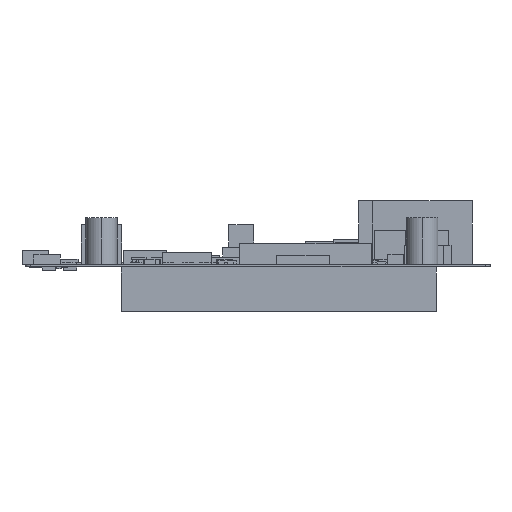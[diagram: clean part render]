
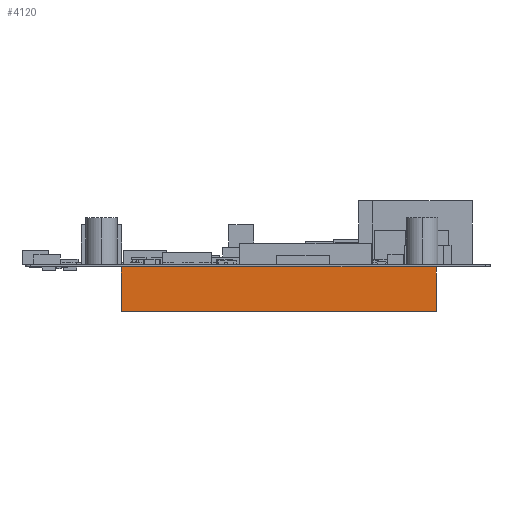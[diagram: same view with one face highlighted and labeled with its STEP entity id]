
A CAD part, left-side view. The second image highlights one B-rep face of the part: STEP entity #4120.
In plain terms, the highlighted planar face has unit normal (-1, 0, 0) as drawn and (1, 0, 0) by its records, which use the part's own axes.
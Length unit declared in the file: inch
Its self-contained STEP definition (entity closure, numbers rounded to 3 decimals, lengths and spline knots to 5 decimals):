
#4014=DIRECTION('',(0.,-1.,0.));
#4015=VECTOR('',#4014,2.64566);
#4016=CARTESIAN_POINT('',(2.17677,1.31063,0.));
#4017=LINE('',#4016,#4015);
#4018=DIRECTION('',(0.,0.,-1.));
#4019=VECTOR('',#4018,0.37214);
#4020=CARTESIAN_POINT('',(2.17677,1.31063,0.37214));
#4021=LINE('',#4020,#4019);
#4026=DIRECTION('',(0.,0.,-1.));
#4027=VECTOR('',#4026,0.37214);
#4028=CARTESIAN_POINT('',(2.17677,-1.33503,0.37214));
#4029=LINE('',#4028,#4027);
#4038=DIRECTION('',(0.,-1.,0.));
#4039=VECTOR('',#4038,2.64566);
#4040=CARTESIAN_POINT('',(2.17677,1.31063,0.37214));
#4041=LINE('',#4040,#4039);
#4050=CARTESIAN_POINT('',(2.17677,-1.33503,0.));
#4051=VERTEX_POINT('',#4050);
#4052=CARTESIAN_POINT('',(2.17677,1.31063,0.));
#4053=VERTEX_POINT('',#4052);
#4058=CARTESIAN_POINT('',(2.17677,1.31063,0.37214));
#4059=VERTEX_POINT('',#4058);
#4060=CARTESIAN_POINT('',(2.17677,-1.33503,0.37214));
#4061=VERTEX_POINT('',#4060);
#4107=CARTESIAN_POINT('',(2.17677,-1.33503,0.));
#4108=DIRECTION('',(1.,0.,0.));
#4109=DIRECTION('',(0.,1.,0.));
#4110=AXIS2_PLACEMENT_3D('',#4107,#4108,#4109);
#4111=PLANE('',#4110);
#4112=ORIENTED_EDGE('',*,*,#4071,.T.);
#4114=ORIENTED_EDGE('',*,*,#4113,.F.);
#4116=ORIENTED_EDGE('',*,*,#4115,.F.);
#4117=ORIENTED_EDGE('',*,*,#4099,.T.);
#4118=EDGE_LOOP('',(#4112,#4114,#4116,#4117));
#4119=FACE_OUTER_BOUND('',#4118,.F.);
#4120=ADVANCED_FACE('',(#4119),#4111,.T.);
#4071=EDGE_CURVE('',#4053,#4051,#4017,.T.);
#4099=EDGE_CURVE('',#4059,#4053,#4021,.T.);
#4113=EDGE_CURVE('',#4061,#4051,#4029,.T.);
#4115=EDGE_CURVE('',#4059,#4061,#4041,.T.);
